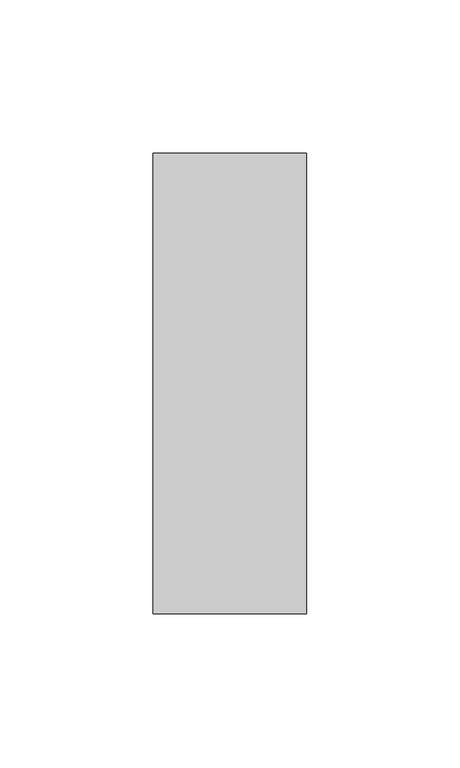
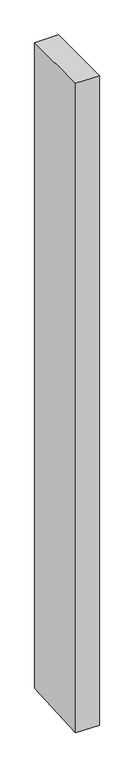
"""IFC4 building model written with IfcOpenShell, lengths in millimetres: member geometry, Прямоугольный импост : 50 x 150 мм."""

from ifc_helpers import new_model, si_unit, origin, place, context, project, spatial, faceted_brep, source, transform, mapped, element, save


def member_613ef579(model_context):
    return source(origin(), model_context, "Body", "Brep", [
        faceted_brep([(25.0, 75.0, 0.0), (-25.0, 75.0, 0.0), (-25.0, -75.0, 0.0), (25.0, -75.0, 0.0), (25.0, 75.0, -1442.5024306), (-25.0, 75.0, -1441.9993388), (-25.0, -75.0, -1450.6702335), (25.0, -75.0, -1451.1733252)], [[[0, 1, 2, 3]], [[1, 0, 4, 5]], [[2, 1, 5, 6]], [[3, 2, 6, 7]], [[0, 3, 7, 4]], [[4, 7, 6, 5]]]),
    ])


if __name__ == "__main__":
    model = new_model("IFC4")
    model_context = context("Model", 3, world=origin())
    ifc_project = project(units=[si_unit("LENGTHUNIT", "METRE", prefix="MILLI")], contexts=[model_context])
    site = spatial("IfcSite", under=ifc_project)
    building = spatial("IfcBuilding", under=site)
    placement = place(None, origin())
    member_shape = member_613ef579(model_context)
    element("IfcMember", 1, ObjectType="Прямоугольный импост : 50 x 150 мм", at=placement, inside=building, context=model_context, shape_type="MappedRepresentation", body=[
        mapped(member_shape, transform((0.0, 0.0, 0.0), x_axis=(1.0, 0.0, 0.0), y_axis=(0.0, 1.0, 0.0), z_axis=(0.0, 0.0, 1.0))),
    ])
    save(model, "model.ifc")
